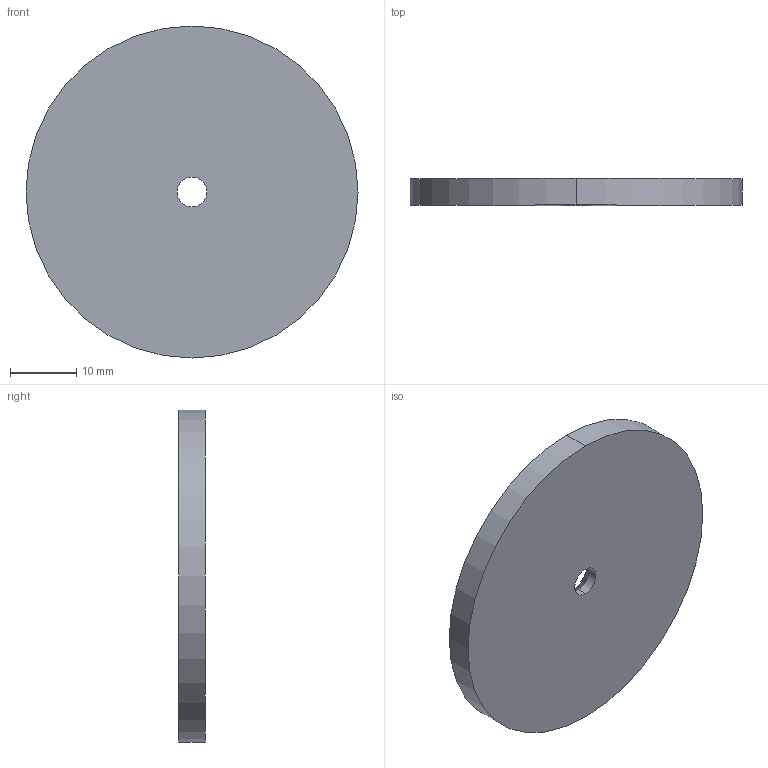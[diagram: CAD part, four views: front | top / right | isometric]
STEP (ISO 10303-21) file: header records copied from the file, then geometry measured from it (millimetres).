
FILE_DESCRIPTION (( 'STEP AP203' ), '1' );
FILE_NAME ('Magnet_verstärkt_für_MultiSwitch_24.STEP', '2024-12-03T05:27:41', ( '' ), ( '' ), 'SwSTEP 2.0', 'SolidWorks 2023', '' );
FILE_SCHEMA (( 'CONFIG_CONTROL_DESIGN' ));
Length unit declared in the file: millimetre
Products named in the file (1): Magnet_verstärkt_für_MultiSwitch_24
Bounding box: 50 x 4 x 50 mm (x, y, z)
Volume: 7730.9 mm3; surface area: 4567.5 mm2
Topology: 1 solids, 1 shells, 8 faces, 16 edges, 10 vertices
Faces by surface type: cylinder 4, cone 2, plane 2
Entity records: 295 total; most frequent: DIRECTION 44, CARTESIAN_POINT 35, ORIENTED_EDGE 32, AXIS2_PLACEMENT_3D 19, EDGE_CURVE 16, EDGE_LOOP 10, CIRCLE 10, VERTEX_POINT 10
